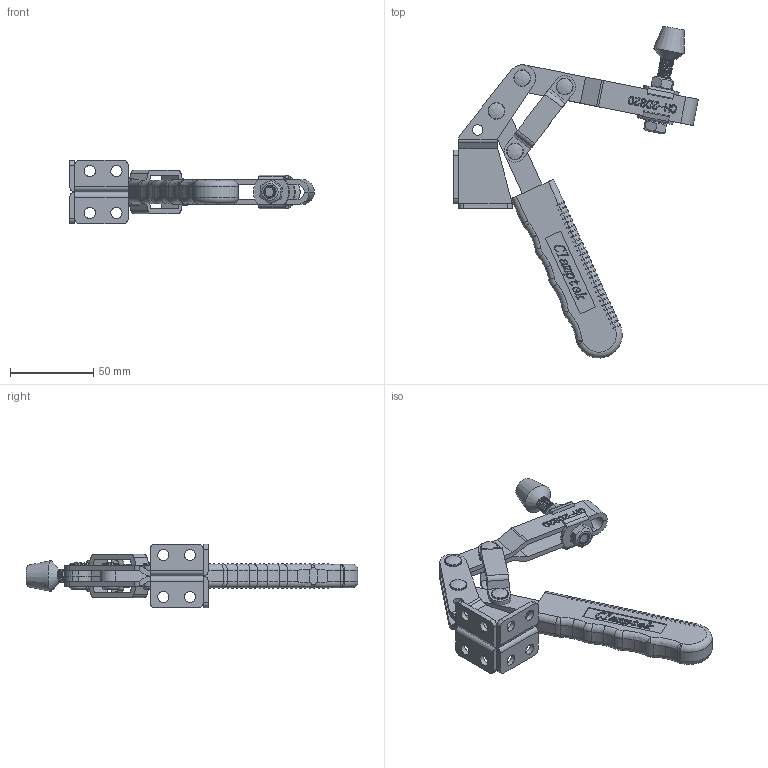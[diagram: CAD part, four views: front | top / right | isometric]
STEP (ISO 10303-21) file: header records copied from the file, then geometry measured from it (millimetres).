
FILE_DESCRIPTION(/* description */ ('STEP AP203'),/* implementation_level */ '2;1');
FILE_NAME(/* name */ 'E:\STRONA\Horizontal toggle clamp\CH-20820\CH-20820_OTWARTY.stp',/* time_stamp */ '2019-01-14T13:53:51+01:00',/* author */ ('Admin'),/* organization */ ('Î¢ÈíÖÐ¹ú'),/* preprocessor_version */ 'ST-DEVELOPER v17.2',/* originating_system */ 'Autodesk Inventor 2019',/* authorisation */ '');
FILE_SCHEMA (('AUTOMOTIVE_DESIGN { 1 0 10303 214 3 1 1 }'));
Products named in the file (10): CH-20820_OTWARTY; 20820-02; 56212; 20820-03; CH-20820-05; 20820-01; 20820-06; FW516; 56212-02; 20820-04
Assembly tree (15 placements, depth 2):
  CH-20820_OTWARTY
    20820-02
    20820-06  x4
    56212
    20820-03
    FW516  x2
    20820-04  x2
    CH-20820-05
    56212-02  x2
    20820-01
Bounding box: 146.54 x 199.02 x 38 mm (x, y, z)
Volume: 86528.9 mm3; surface area: 53459.6 mm2
Topology: 19 solids, 19 shells, 1389 faces, 3686 edges, 2391 vertices
Faces by surface type: plane 604, bspline 362, cylinder 305, torus 92, cone 16, sphere 10
Full cylindrical faces by diameter (mm): 3 x1, 4.4 x1, 4.646 x4, 6.3 x12, 6.4 x14, 6.7 x8, 7.92 x32, 8.1 x2, 10 x8
Entity records: 72394 total; most frequent: CARTESIAN_POINT 42016, ORIENTED_EDGE 6858, DIRECTION 5125, EDGE_CURVE 3429, VERTEX_POINT 2216, LINE 2001, VECTOR 2001, AXIS2_PLACEMENT_3D 1562
